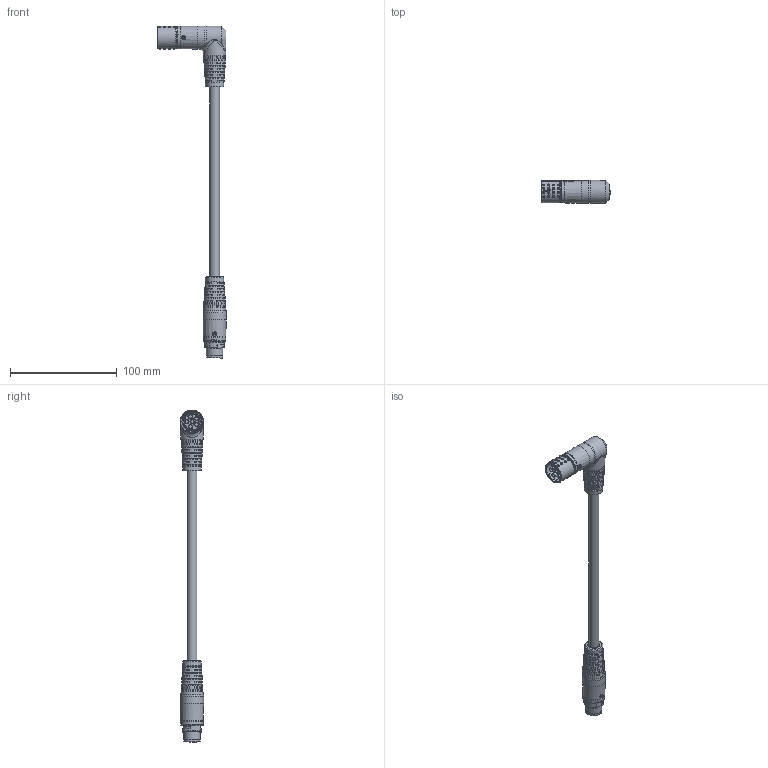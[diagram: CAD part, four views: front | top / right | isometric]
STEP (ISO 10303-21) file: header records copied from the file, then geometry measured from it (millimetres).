
FILE_DESCRIPTION (( 'STEP AP203' ), '1' );
FILE_NAME ('1138012_W-TEC_15K_STI-BU-90°_R_STEP.STEP', '2023-09-01T08:24:32', ( '' ), ( '' ), 'SwSTEP 2.0', 'SolidWorks 2021', '' );
FILE_SCHEMA (( 'CONFIG_CONTROL_DESIGN' ));
Length unit declared in the file: millimetre
Products named in the file (1): 1138012_W-TEC_15K_STI-BU-90起R_STEP
Bounding box: 64.26 x 21.83 x 311.29 mm (x, y, z)
Surface area: 22774.7 mm2 (no closed solid volume)
Topology: 0 solids, 37 shells, 900 faces, 3579 edges, 2520 vertices
Faces by surface type: bspline 382, plane 229, cylinder 216, cone 52, torus 19, sphere 2
Full cylindrical faces by diameter (mm): 1.6 x3, 3.3 x6, 4 x2, 4.2 x3, 4.4 x3, 9.1 x1, 11.1 x3, 15.2 x1, 15.4 x1, 17.384 x1, 17.397 x1, 18.4 x1, 21.038 x1, 21.24 x1, 21.72 x2
Entity records: 61270 total; most frequent: CARTESIAN_POINT 37857, ORIENTED_EDGE 5161, EDGE_CURVE 3395, DIRECTION 3313, VERTEX_POINT 2470, B_SPLINE_CURVE_WITH_KNOTS 1663, AXIS2_PLACEMENT_3D 1208, EDGE_LOOP 1074
